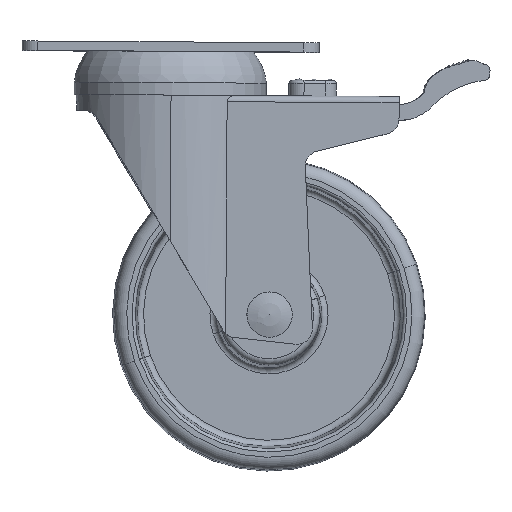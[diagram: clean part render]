
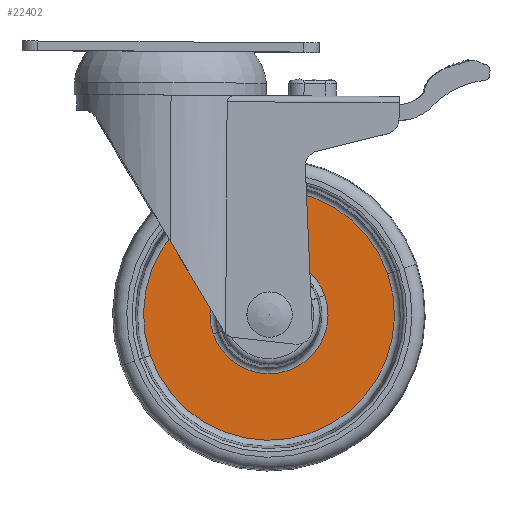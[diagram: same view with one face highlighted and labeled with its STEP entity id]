
A CAD part, top view. The second image highlights one B-rep face of the part: STEP entity #22402.
In plain terms, the highlighted planar face has unit normal (0.008, 0, 1) as drawn and (-1, 0, 0) by its records, which use the part's own axes.
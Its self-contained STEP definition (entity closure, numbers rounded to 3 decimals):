
#3017 = CARTESIAN_POINT ( 'NONE',  ( -4., 0., 0. ) ) ;
#3451 = DIRECTION ( 'NONE',  ( 0., 0., 1. ) ) ;
#5171 = AXIS2_PLACEMENT_3D ( 'NONE', #43536, #42841, #25678 ) ;
#6786 = AXIS2_PLACEMENT_3D ( 'NONE', #42106, #31666, #24950 ) ;
#9591 = CIRCLE ( 'NONE', #17720, 18.879 ) ;
#10441 = EDGE_CURVE ( 'NONE', #25499, #43540, #39812, .T. ) ;
#11538 = PLANE ( 'NONE',  #5171 ) ;
#11637 = VERTEX_POINT ( 'NONE', #17820 ) ;
#11772 = ORIENTED_EDGE ( 'NONE', *, *, #43277, .F. ) ;
#11979 = EDGE_CURVE ( 'NONE', #43540, #25499, #43039, .T. ) ;
#17720 = AXIS2_PLACEMENT_3D ( 'NONE', #28059, #28296, #38534 ) ;
#17820 = CARTESIAN_POINT ( 'NONE',  ( -4., 0., 18.879 ) ) ;
#18973 = EDGE_LOOP ( 'NONE', ( #20273, #30382 ) ) ;
#20273 = ORIENTED_EDGE ( 'NONE', *, *, #11979, .T. ) ;
#20498 = DIRECTION ( 'NONE',  ( -1., 0., 0. ) ) ;
#21415 = CARTESIAN_POINT ( 'NONE',  ( -4., 0., -18.879 ) ) ;
#21919 = EDGE_CURVE ( 'NONE', #27458, #11637, #9591, .T. ) ;
#22402 = ADVANCED_FACE ( 'NONE', ( #28694, #35680 ), #11538, .F. ) ;
#22728 = CARTESIAN_POINT ( 'NONE',  ( -4., 0., 40.143 ) ) ;
#24950 = DIRECTION ( 'NONE',  ( 0., 0., 1. ) ) ;
#25499 = VERTEX_POINT ( 'NONE', #29154 ) ;
#25586 = ORIENTED_EDGE ( 'NONE', *, *, #21919, .F. ) ;
#25678 = DIRECTION ( 'NONE',  ( 0., 0., 1. ) ) ;
#27458 = VERTEX_POINT ( 'NONE', #21415 ) ;
#28059 = CARTESIAN_POINT ( 'NONE',  ( -4., 0., 0. ) ) ;
#28296 = DIRECTION ( 'NONE',  ( -1., 0., 0. ) ) ;
#28694 = FACE_OUTER_BOUND ( 'NONE', #18973, .T. ) ;
#29154 = CARTESIAN_POINT ( 'NONE',  ( -4., 0., -40.143 ) ) ;
#29282 = AXIS2_PLACEMENT_3D ( 'NONE', #31165, #20498, #41836 ) ;
#30382 = ORIENTED_EDGE ( 'NONE', *, *, #10441, .T. ) ;
#30953 = AXIS2_PLACEMENT_3D ( 'NONE', #3017, #31268, #3451 ) ;
#31165 = CARTESIAN_POINT ( 'NONE',  ( -4., 0., 0. ) ) ;
#31268 = DIRECTION ( 'NONE',  ( -1., 0., 0. ) ) ;
#31484 = CIRCLE ( 'NONE', #29282, 18.879 ) ;
#31666 = DIRECTION ( 'NONE',  ( -1., 0., 0. ) ) ;
#35680 = FACE_BOUND ( 'NONE', #42873, .T. ) ;
#38534 = DIRECTION ( 'NONE',  ( 0., 0., 1. ) ) ;
#39812 = CIRCLE ( 'NONE', #30953, 40.143 ) ;
#41836 = DIRECTION ( 'NONE',  ( 0., 0., 1. ) ) ;
#42106 = CARTESIAN_POINT ( 'NONE',  ( -4., 0., 0. ) ) ;
#42841 = DIRECTION ( 'NONE',  ( 1., 0., 0. ) ) ;
#42873 = EDGE_LOOP ( 'NONE', ( #11772, #25586 ) ) ;
#43039 = CIRCLE ( 'NONE', #6786, 40.143 ) ;
#43277 = EDGE_CURVE ( 'NONE', #11637, #27458, #31484, .T. ) ;
#43536 = CARTESIAN_POINT ( 'NONE',  ( -4., 18.879, 0. ) ) ;
#43540 = VERTEX_POINT ( 'NONE', #22728 ) ;
